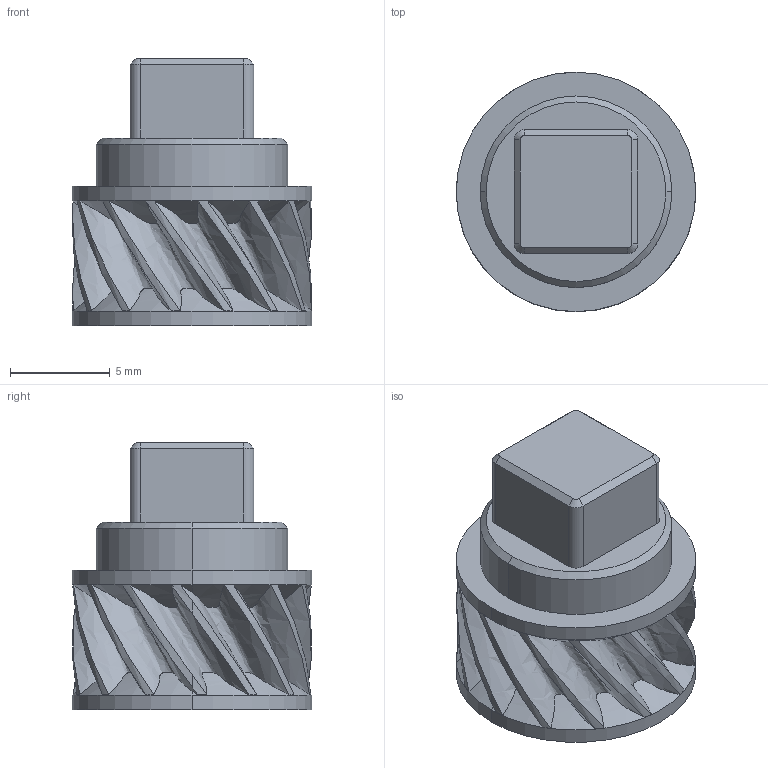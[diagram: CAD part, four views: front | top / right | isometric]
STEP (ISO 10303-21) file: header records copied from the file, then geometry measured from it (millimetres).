
FILE_DESCRIPTION (( 'STEP AP214' ), '1' );
FILE_NAME ('ﾂ ﾇﾊ 18.STEP', '2019-03-21T14:04:16', ( '' ), ( '' ), 'SwSTEP 2.0', 'SolidWorks 2018', '' );
FILE_SCHEMA (( 'AUTOMOTIVE_DESIGN' ));
Length unit declared in the file: millimetre
Products named in the file (1): ﾂ ﾇﾊ 18
Bounding box: 12 x 12 x 13.4 mm (x, y, z)
Volume: 793.7 mm3; surface area: 890.6 mm2
Topology: 1 solids, 1 shells, 69 faces, 174 edges, 110 vertices
Faces by surface type: cylinder 28, bspline 14, plane 13, cone 12, torus 2
Entity records: 37634 total; most frequent: CARTESIAN_POINT 36102, ORIENTED_EDGE 348, DIRECTION 286, EDGE_CURVE 174, AXIS2_PLACEMENT_3D 120, VERTEX_POINT 110, EDGE_LOOP 72, ADVANCED_FACE 69
